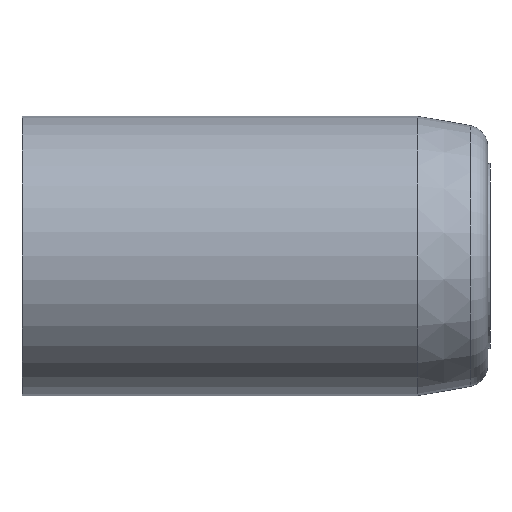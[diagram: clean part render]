
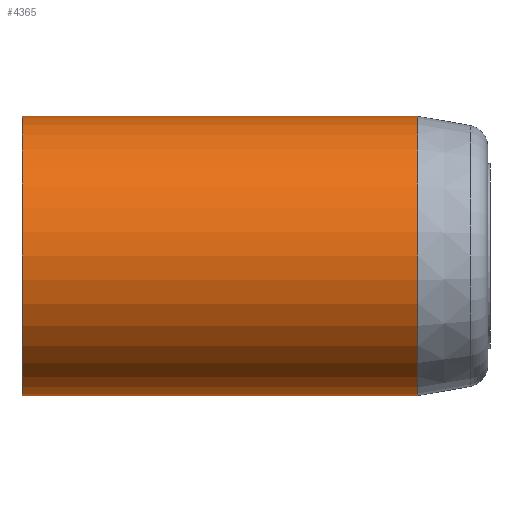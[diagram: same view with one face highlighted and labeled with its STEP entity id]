
A CAD part, left-side view. The second image highlights one B-rep face of the part: STEP entity #4365.
In plain terms, the highlighted cylindrical face has radius 6 mm (diameter 12 mm), a partial arc.
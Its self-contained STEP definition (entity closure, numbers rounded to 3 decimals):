
#1811 = DIRECTION ( 'NONE',  ( 0., 0., 1. ) ) ;
#2368 = DIRECTION ( 'NONE',  ( 0., 1., 0. ) ) ;
#2432 = VERTEX_POINT ( 'NONE', #8164 ) ;
#2760 = CYLINDRICAL_SURFACE ( 'NONE', #15040, 6. ) ;
#2962 = VECTOR ( 'NONE', #2368, 1000. ) ;
#3151 = VECTOR ( 'NONE', #14687, 1000. ) ;
#4104 = CIRCLE ( 'NONE', #15900, 6. ) ;
#4365 = ADVANCED_FACE ( 'NONE', ( #10599 ), #2760, .T. ) ;
#4415 = VERTEX_POINT ( 'NONE', #13748 ) ;
#4923 = DIRECTION ( 'NONE',  ( 0., 0., -1. ) ) ;
#4964 = AXIS2_PLACEMENT_3D ( 'NONE', #16398, #11042, #1811 ) ;
#5140 = EDGE_CURVE ( 'NONE', #12974, #10387, #10464, .T. ) ;
#6488 = EDGE_CURVE ( 'NONE', #10387, #4415, #8888, .T. ) ;
#6489 = DIRECTION ( 'NONE',  ( 0., 0., 1. ) ) ;
#6569 = ORIENTED_EDGE ( 'NONE', *, *, #17367, .T. ) ;
#6688 = ORIENTED_EDGE ( 'NONE', *, *, #6488, .F. ) ;
#7049 = CARTESIAN_POINT ( 'NONE',  ( 0., -15., 6. ) ) ;
#8135 = CARTESIAN_POINT ( 'NONE',  ( 0., -15., 0. ) ) ;
#8164 = CARTESIAN_POINT ( 'NONE',  ( 0., -4.9, 6. ) ) ;
#8888 = CIRCLE ( 'NONE', #4964, 6. ) ;
#9232 = CARTESIAN_POINT ( 'NONE',  ( 0., -4.9, 0. ) ) ;
#9650 = EDGE_CURVE ( 'NONE', #2432, #4415, #13452, .T. ) ;
#10387 = VERTEX_POINT ( 'NONE', #11701 ) ;
#10464 = LINE ( 'NONE', #15646, #2962 ) ;
#10599 = FACE_OUTER_BOUND ( 'NONE', #10812, .T. ) ;
#10812 = EDGE_LOOP ( 'NONE', ( #11832, #6569, #14708, #6688 ) ) ;
#11042 = DIRECTION ( 'NONE',  ( 0., 1., 0. ) ) ;
#11701 = CARTESIAN_POINT ( 'NONE',  ( 0., 12.1, -6. ) ) ;
#11832 = ORIENTED_EDGE ( 'NONE', *, *, #5140, .F. ) ;
#12524 = CARTESIAN_POINT ( 'NONE',  ( 0., -4.9, -6. ) ) ;
#12974 = VERTEX_POINT ( 'NONE', #12524 ) ;
#13452 = LINE ( 'NONE', #7049, #3151 ) ;
#13487 = DIRECTION ( 'NONE',  ( 0., 1., 0. ) ) ;
#13748 = CARTESIAN_POINT ( 'NONE',  ( 0., 12.1, 6. ) ) ;
#14687 = DIRECTION ( 'NONE',  ( 0., 1., 0. ) ) ;
#14708 = ORIENTED_EDGE ( 'NONE', *, *, #9650, .T. ) ;
#15040 = AXIS2_PLACEMENT_3D ( 'NONE', #8135, #13487, #6489 ) ;
#15646 = CARTESIAN_POINT ( 'NONE',  ( 0., -15., -6. ) ) ;
#15900 = AXIS2_PLACEMENT_3D ( 'NONE', #9232, #16954, #4923 ) ;
#16398 = CARTESIAN_POINT ( 'NONE',  ( 0., 12.1, 0. ) ) ;
#16954 = DIRECTION ( 'NONE',  ( 0., 1., 0. ) ) ;
#17367 = EDGE_CURVE ( 'NONE', #12974, #2432, #4104, .T. ) ;
